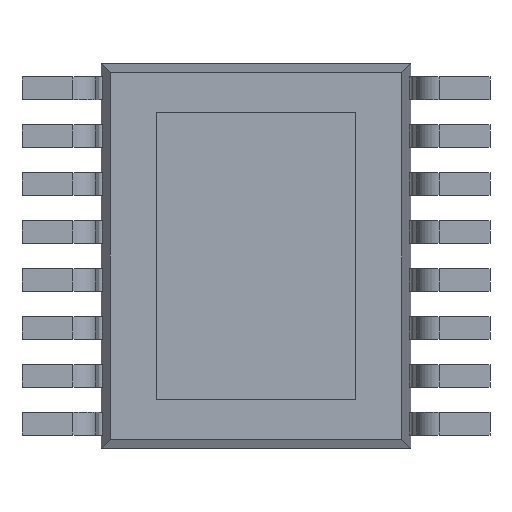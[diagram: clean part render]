
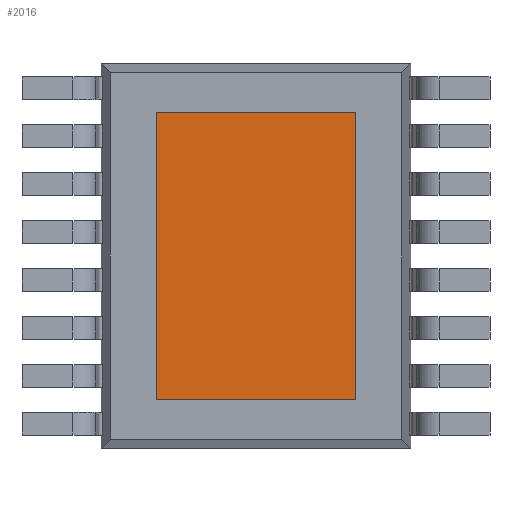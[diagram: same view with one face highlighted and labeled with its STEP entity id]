
A CAD part, front view. The second image highlights one B-rep face of the part: STEP entity #2016.
In plain terms, the highlighted planar face has unit normal (0, -1, 0).
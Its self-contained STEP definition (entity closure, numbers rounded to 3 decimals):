
#250 = CARTESIAN_POINT ( 'NONE',  ( 1.32, 0., -1.905 ) ) ;
#251 = CARTESIAN_POINT ( 'NONE',  ( -1.32, 0., 1.905 ) ) ;
#281 = CARTESIAN_POINT ( 'NONE',  ( 1.32, 0., 1.905 ) ) ;
#293 = CARTESIAN_POINT ( 'NONE',  ( -1.32, 0., -1.905 ) ) ;
#935 = LINE ( 'NONE', #1312, #948 ) ;
#947 = LINE ( 'NONE', #1332, #950 ) ;
#948 = VECTOR ( 'NONE', #1331, 1000. ) ;
#950 = VECTOR ( 'NONE', #1333, 1000. ) ;
#1312 = CARTESIAN_POINT ( 'NONE',  ( -1.32, 0., 1.905 ) ) ;
#1331 = DIRECTION ( 'NONE',  ( 0., 0., -1. ) ) ;
#1332 = CARTESIAN_POINT ( 'NONE',  ( -1.32, 0., -1.905 ) ) ;
#1333 = DIRECTION ( 'NONE',  ( 1., 0., 0. ) ) ;
#1630 = EDGE_CURVE ( 'NONE', #3333, #3303, #6747, .T. ) ;
#1633 = EDGE_CURVE ( 'NONE', #3302, #3333, #6750, .T. ) ;
#2016 = ADVANCED_FACE ( 'NONE', ( #6808 ), #7466, .F. ) ;
#3302 = VERTEX_POINT ( 'NONE', #250 ) ;
#3303 = VERTEX_POINT ( 'NONE', #251 ) ;
#3333 = VERTEX_POINT ( 'NONE', #281 ) ;
#3345 = VERTEX_POINT ( 'NONE', #293 ) ;
#3867 = EDGE_CURVE ( 'NONE', #3303, #3345, #935, .T. ) ;
#3868 = EDGE_CURVE ( 'NONE', #3345, #3302, #947, .T. ) ;
#4482 = AXIS2_PLACEMENT_3D ( 'NONE', #7486, #7487, #7488 ) ;
#5236 = CARTESIAN_POINT ( 'NONE',  ( -1.32, 0., 1.905 ) ) ;
#5244 = DIRECTION ( 'NONE',  ( -1., 0., 0. ) ) ;
#5256 = CARTESIAN_POINT ( 'NONE',  ( 1.32, 0., 1.905 ) ) ;
#5259 = DIRECTION ( 'NONE',  ( 0., 0., 1. ) ) ;
#6352 = ORIENTED_EDGE ( 'NONE', *, *, #1633, .T. ) ;
#6353 = ORIENTED_EDGE ( 'NONE', *, *, #1630, .T. ) ;
#6354 = ORIENTED_EDGE ( 'NONE', *, *, #3867, .T. ) ;
#6356 = ORIENTED_EDGE ( 'NONE', *, *, #3868, .T. ) ;
#6398 = EDGE_LOOP ( 'NONE', ( #6352, #6353, #6354, #6356 ) ) ;
#6747 = LINE ( 'NONE', #5236, #6749 ) ;
#6749 = VECTOR ( 'NONE', #5244, 1000. ) ;
#6750 = LINE ( 'NONE', #5256, #6758 ) ;
#6758 = VECTOR ( 'NONE', #5259, 1000. ) ;
#6808 = FACE_OUTER_BOUND ( 'NONE', #6398, .T. ) ;
#7466 = PLANE ( 'NONE',  #4482 ) ;
#7486 = CARTESIAN_POINT ( 'NONE',  ( 0., 0., 0. ) ) ;
#7487 = DIRECTION ( 'NONE',  ( 0., 1., 0. ) ) ;
#7488 = DIRECTION ( 'NONE',  ( 0., 0., 1. ) ) ;
